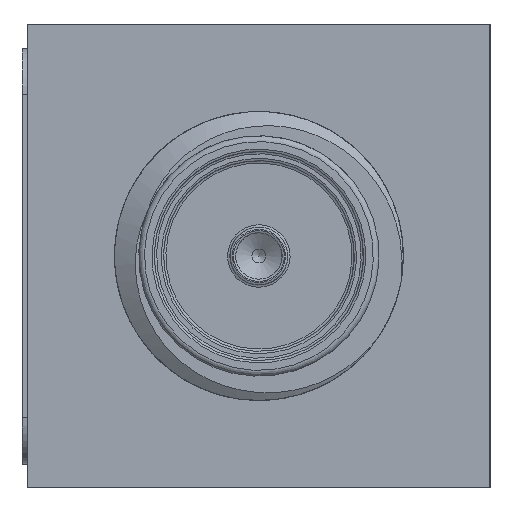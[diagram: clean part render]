
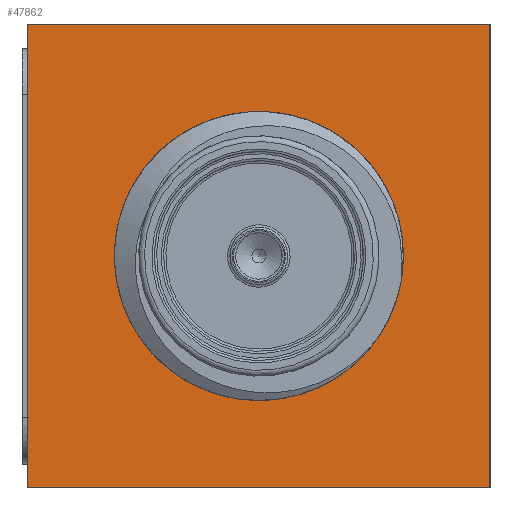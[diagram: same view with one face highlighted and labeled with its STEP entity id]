
A CAD part, left-side view. The second image highlights one B-rep face of the part: STEP entity #47862.
In plain terms, the highlighted planar face has unit normal (-1, 0, 0).
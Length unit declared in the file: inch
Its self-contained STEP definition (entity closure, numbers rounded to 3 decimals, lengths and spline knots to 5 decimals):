
#1827 = ORIENTED_EDGE ( 'NONE', *, *, #36642, .F. ) ;
#2461 = ORIENTED_EDGE ( 'NONE', *, *, #6499, .F. ) ;
#2657 = CARTESIAN_POINT ( 'NONE',  ( 0., -0.4, -0.4 ) ) ;
#3645 = CARTESIAN_POINT ( 'NONE',  ( 0., 0., 0. ) ) ;
#5312 = DIRECTION ( 'NONE',  ( -1., 0., 0. ) ) ;
#6488 = CARTESIAN_POINT ( 'NONE',  ( 0., -0.4, 0. ) ) ;
#6499 = EDGE_CURVE ( 'NONE', #17836, #68112, #40592, .T. ) ;
#7768 = AXIS2_PLACEMENT_3D ( 'NONE', #17465, #5312, #22068 ) ;
#11723 = LINE ( 'NONE', #35672, #74407 ) ;
#12205 = LINE ( 'NONE', #6488, #12317 ) ;
#12317 = VECTOR ( 'NONE', #29705, 39.37008 ) ;
#16347 = FACE_OUTER_BOUND ( 'NONE', #69665, .T. ) ;
#17465 = CARTESIAN_POINT ( 'NONE',  ( 0., -0.4, 0. ) ) ;
#17836 = VERTEX_POINT ( 'NONE', #2657 ) ;
#19584 = EDGE_LOOP ( 'NONE', ( #72483 ) ) ;
#21433 = VECTOR ( 'NONE', #38049, 39.37008 ) ;
#22068 = DIRECTION ( 'NONE',  ( 0., 0., 1. ) ) ;
#23575 = FACE_BOUND ( 'NONE', #19584, .T. ) ;
#26644 = CARTESIAN_POINT ( 'NONE',  ( 0., -0.4, -0.4 ) ) ;
#26709 = EDGE_CURVE ( 'NONE', #17836, #33980, #12205, .T. ) ;
#28062 = ORIENTED_EDGE ( 'NONE', *, *, #74526, .T. ) ;
#29705 = DIRECTION ( 'NONE',  ( 0., 0., 1. ) ) ;
#33300 = DIRECTION ( 'NONE',  ( -1., 0., 0. ) ) ;
#33511 = DIRECTION ( 'NONE',  ( 0., 0., 1. ) ) ;
#33980 = VERTEX_POINT ( 'NONE', #36249 ) ;
#34922 = DIRECTION ( 'NONE',  ( 0., 1., 0. ) ) ;
#35672 = CARTESIAN_POINT ( 'NONE',  ( 0., -0.4, 0. ) ) ;
#36054 = VERTEX_POINT ( 'NONE', #3645 ) ;
#36249 = CARTESIAN_POINT ( 'NONE',  ( 0., -0.4, 0. ) ) ;
#36642 = EDGE_CURVE ( 'NONE', #68112, #36054, #74049, .T. ) ;
#38049 = DIRECTION ( 'NONE',  ( 0., 1., 0. ) ) ;
#40592 = LINE ( 'NONE', #26644, #21433 ) ;
#42053 = CARTESIAN_POINT ( 'NONE',  ( 0., -0.2, -0.194 ) ) ;
#46005 = PLANE ( 'NONE',  #7768 ) ;
#47700 = EDGE_CURVE ( 'NONE', #70846, #70846, #61660, .T. ) ;
#47862 = ADVANCED_FACE ( 'NONE', ( #23575, #16347 ), #46005, .T. ) ;
#48297 = CARTESIAN_POINT ( 'NONE',  ( 0., 0., -0.4 ) ) ;
#49806 = CARTESIAN_POINT ( 'NONE',  ( 0., 0., 0. ) ) ;
#51927 = ORIENTED_EDGE ( 'NONE', *, *, #26709, .T. ) ;
#60448 = AXIS2_PLACEMENT_3D ( 'NONE', #68127, #33300, #73094 ) ;
#61660 = CIRCLE ( 'NONE', #60448, 0.006 ) ;
#68112 = VERTEX_POINT ( 'NONE', #48297 ) ;
#68127 = CARTESIAN_POINT ( 'NONE',  ( 0., -0.2, -0.2 ) ) ;
#69665 = EDGE_LOOP ( 'NONE', ( #1827, #2461, #51927, #28062 ) ) ;
#70574 = VECTOR ( 'NONE', #33511, 39.37008 ) ;
#70846 = VERTEX_POINT ( 'NONE', #42053 ) ;
#72483 = ORIENTED_EDGE ( 'NONE', *, *, #47700, .F. ) ;
#73094 = DIRECTION ( 'NONE',  ( 0., 0., 1. ) ) ;
#74049 = LINE ( 'NONE', #49806, #70574 ) ;
#74407 = VECTOR ( 'NONE', #34922, 39.37008 ) ;
#74526 = EDGE_CURVE ( 'NONE', #33980, #36054, #11723, .T. ) ;
